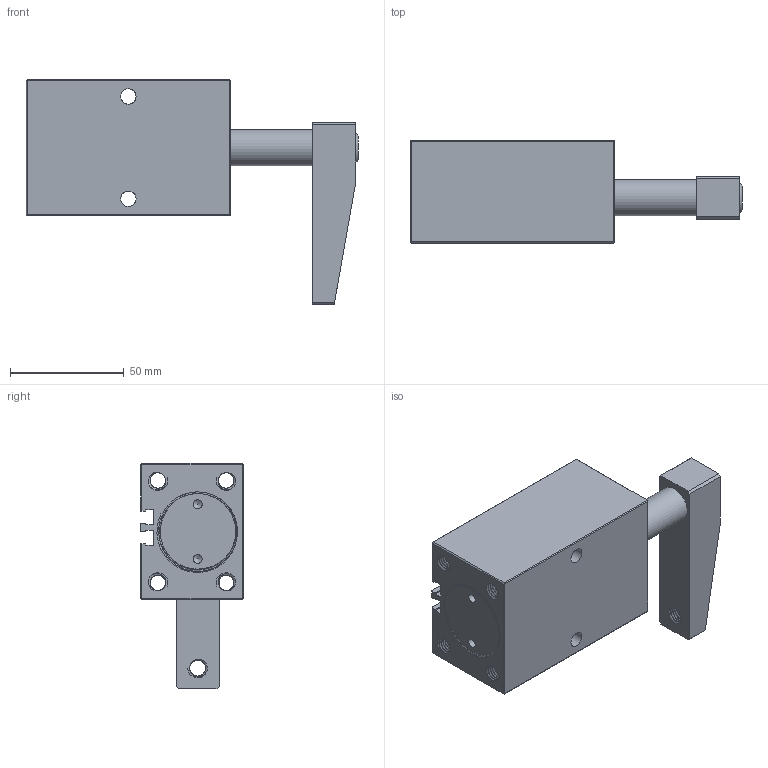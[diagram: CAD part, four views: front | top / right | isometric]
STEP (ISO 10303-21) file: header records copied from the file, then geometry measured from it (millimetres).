
FILE_DESCRIPTION(/* description */ (''),/* implementation_level */ '2;1');
FILE_NAME(/* name */ 'E:\SERWER_ZAPAS\Pneumatic\PSB PNEUMATIC SWING\PSB-32\PSB-32L_OTWARTY.stp',/* time_stamp */ '2019-02-05T12:16:19+01:00',/* author */ ('Admin'),/* organization */ (''),/* preprocessor_version */ 'ST-DEVELOPER v17.2',/* originating_system */ 'Autodesk Inventor 2019',/* authorisation */ '');
FILE_SCHEMA (('AUTOMOTIVE_DESIGN { 1 0 10303 214 3 1 1 }'));
Products named in the file (6): PSB-32L_OTWARTY; PSB-32BT; PSB-32HSG; PSB-32HG; PSB-32YB; M8X20
Assembly tree (5 placements, depth 2):
  PSB-32L_OTWARTY
    PSB-32BT
    PSB-32HSG
    PSB-32HG
    PSB-32YB
    M8X20
Bounding box: 146 x 45 x 99 mm (x, y, z)
Volume: 222260.1 mm3; surface area: 69705.3 mm2
Topology: 5 solids, 5 shells, 385 faces, 1120 edges, 755 vertices
Faces by surface type: cylinder 187, bspline 94, plane 86, cone 9, torus 9
Full cylindrical faces by diameter (mm): 1 x2, 4 x2, 6.8 x86, 7 x22, 8 x15, 8.2 x13, 9 x1, 11 x4, 13 x1, 14 x1, 16 x2, 29 x1, 32 x4, 33.5 x7, 35 x10, 36 x1
Entity records: 51057 total; most frequent: CARTESIAN_POINT 41720, ORIENTED_EDGE 2234, DIRECTION 1372, EDGE_CURVE 1117, VERTEX_POINT 755, B_SPLINE_CURVE_WITH_KNOTS 524, AXIS2_PLACEMENT_3D 476, EDGE_LOOP 426
